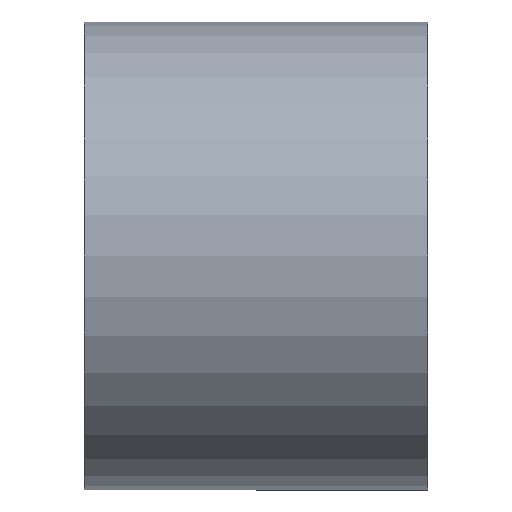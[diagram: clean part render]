
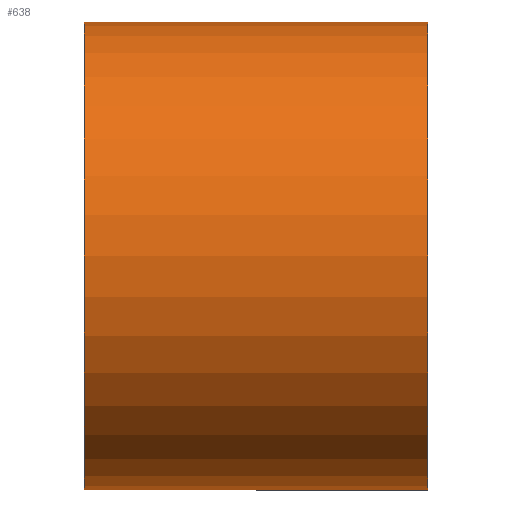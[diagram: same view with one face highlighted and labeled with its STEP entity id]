
A CAD part, front view. The second image highlights one B-rep face of the part: STEP entity #638.
In plain terms, the highlighted cylindrical face has radius 37.5 mm (diameter 75 mm), a partial arc.
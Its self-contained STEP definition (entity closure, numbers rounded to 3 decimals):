
#14 = LINE ( 'NONE', #715, #89 ) ;
#31 = ORIENTED_EDGE ( 'NONE', *, *, #863, .F. ) ;
#32 = DIRECTION ( 'NONE',  ( 0., 0., 1. ) ) ;
#47 = CARTESIAN_POINT ( 'NONE',  ( -27.5, 0., 37.5 ) ) ;
#81 = VERTEX_POINT ( 'NONE', #258 ) ;
#89 = VECTOR ( 'NONE', #104, 1000. ) ;
#104 = DIRECTION ( 'NONE',  ( -1., 0., 0. ) ) ;
#108 = CARTESIAN_POINT ( 'NONE',  ( 27.5, 0., 0. ) ) ;
#134 = ORIENTED_EDGE ( 'NONE', *, *, #772, .T. ) ;
#139 = DIRECTION ( 'NONE',  ( -1., 0., 0. ) ) ;
#142 = CARTESIAN_POINT ( 'NONE',  ( -27.5, 0., 0. ) ) ;
#148 = VERTEX_POINT ( 'NONE', #754 ) ;
#177 = AXIS2_PLACEMENT_3D ( 'NONE', #142, #550, #416 ) ;
#226 = EDGE_CURVE ( 'NONE', #775, #825, #609, .T. ) ;
#242 = ORIENTED_EDGE ( 'NONE', *, *, #226, .F. ) ;
#258 = CARTESIAN_POINT ( 'NONE',  ( 27.5, 0., 37.5 ) ) ;
#259 = CARTESIAN_POINT ( 'NONE',  ( -27.5, 0., -37.5 ) ) ;
#271 = CIRCLE ( 'NONE', #886, 37.5 ) ;
#297 = EDGE_CURVE ( 'NONE', #81, #825, #14, .T. ) ;
#301 = AXIS2_PLACEMENT_3D ( 'NONE', #535, #398, #332 ) ;
#303 = VECTOR ( 'NONE', #139, 1000. ) ;
#332 = DIRECTION ( 'NONE',  ( 0., 0., 1. ) ) ;
#398 = DIRECTION ( 'NONE',  ( -1., 0., 0. ) ) ;
#416 = DIRECTION ( 'NONE',  ( 0., 0., 1. ) ) ;
#523 = FACE_OUTER_BOUND ( 'NONE', #764, .T. ) ;
#535 = CARTESIAN_POINT ( 'NONE',  ( 0., 0., 0. ) ) ;
#550 = DIRECTION ( 'NONE',  ( -1., 0., 0. ) ) ;
#605 = LINE ( 'NONE', #677, #303 ) ;
#609 = CIRCLE ( 'NONE', #177, 37.5 ) ;
#638 = ADVANCED_FACE ( 'NONE', ( #523 ), #792, .T. ) ;
#649 = DIRECTION ( 'NONE',  ( -1., 0., 0. ) ) ;
#677 = CARTESIAN_POINT ( 'NONE',  ( 0., 0., -37.5 ) ) ;
#715 = CARTESIAN_POINT ( 'NONE',  ( 0., 0., 37.5 ) ) ;
#754 = CARTESIAN_POINT ( 'NONE',  ( 27.5, 0., -37.5 ) ) ;
#764 = EDGE_LOOP ( 'NONE', ( #31, #134, #791, #242 ) ) ;
#772 = EDGE_CURVE ( 'NONE', #148, #81, #271, .T. ) ;
#775 = VERTEX_POINT ( 'NONE', #259 ) ;
#791 = ORIENTED_EDGE ( 'NONE', *, *, #297, .T. ) ;
#792 = CYLINDRICAL_SURFACE ( 'NONE', #301, 37.5 ) ;
#825 = VERTEX_POINT ( 'NONE', #47 ) ;
#863 = EDGE_CURVE ( 'NONE', #148, #775, #605, .T. ) ;
#886 = AXIS2_PLACEMENT_3D ( 'NONE', #108, #649, #32 ) ;
